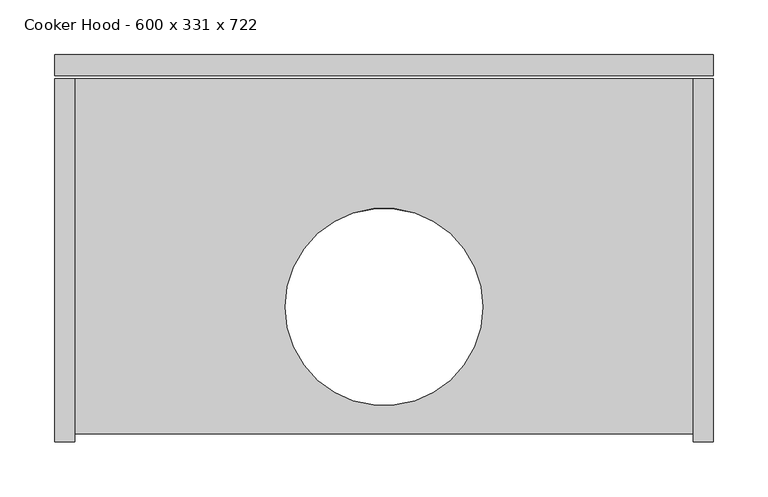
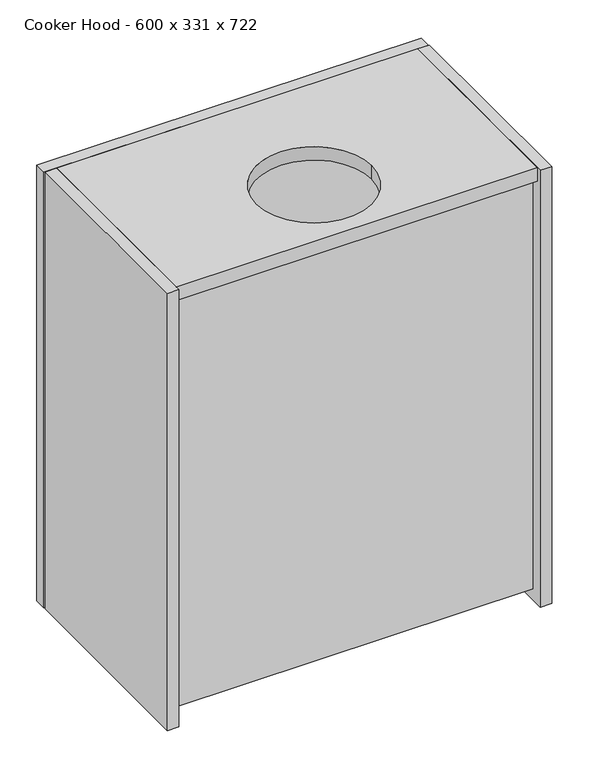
"""IFC4 building model written with IfcOpenShell, lengths in millimetres: furniture geometry, Furniture_Other-Furniture_Molteni&C_Prime_Wall-Unit-Cooker-Hood : Cooker Hood - 600 x 331 x 722."""

from ifc_helpers import new_model, si_unit, frame, origin, origin_with_axes, place, context, project, spatial, polyline, circle_curve, outline, extrude, faceted_brep, source, transform, mapped, element, save
from ifc_brep_helpers import plane_surface, revolved_surface, advanced_brep


def cooker_hood_600_x_331_x_722_96242f5e(model_context):
    return source(origin(), model_context, "Body", "SolidModel", [
        extrude(outline(polyline([(-300.0, 187.5), (300.0, 187.5), (300.0, 168.5), (-300.0, 168.5), (-300.0, 187.5)])), origin_with_axes(), (0.0, 0.0, 1.0), 719.9183585),
        faceted_brep([(-300.0, 165.5, 722.0), (-300.0, -165.5, 722.0), (-282.0, -165.5, 722.0), (-282.0, 165.5, 722.0), (-300.0, 165.5, 0.0), (-282.0, 165.5, 0.0), (-282.0, -165.5, 0.0), (-300.0, -165.5, 0.0), (-282.0, -137.5, 18.0), (-282.0, -145.5, 18.0), (-282.0, -145.5, 704.0), (-282.0, -137.5, 704.0), (300.0, 165.5, 722.0), (282.0, 165.5, 722.0), (282.0, -165.5, 722.0), (300.0, -165.5, 722.0), (300.0, 165.5, 0.0), (300.0, -165.5, 0.0), (282.0, -165.5, 0.0), (282.0, 165.5, 0.0), (282.0, -137.5, 704.0), (282.0, -145.5, 704.0), (282.0, -145.5, 18.0), (282.0, -137.5, 18.0)], [[[0, 1, 2, 3]], [[4, 5, 6, 7]], [[3, 5, 4, 0]], [[2, 6, 5, 3], [8, 9, 10, 11]], [[1, 7, 6, 2]], [[0, 4, 7, 1]], [[12, 13, 14, 15]], [[16, 17, 18, 19]], [[12, 16, 19, 13]], [[13, 19, 18, 14], [20, 21, 22, 23]], [[14, 18, 17, 15]], [[15, 17, 16, 12]], [[20, 23, 8, 11]], [[23, 22, 9, 8]], [[22, 21, 10, 9]], [[11, 10, 21, 20]]]),
        advanced_brep(
        [(282.0, -137.5, 350.0), (282.0, 165.5, 350.0), (282.0, 165.5, 372.0), (282.0, -137.5, 372.0), (-282.0, -137.5, 350.0), (-282.0, -137.5, 372.0), (-282.0, 165.5, 372.0), (-282.0, 165.5, 350.0), (-90.0, -42.5, 372.0), (90.0, -42.5, 372.0), (90.0, -42.5, 350.0), (-90.0, -42.5, 350.0)],
        [
            (0, 1),
            (1, 2),
            (2, 3),
            (3, 0),
            (4, 5),
            (5, 6),
            (6, 7),
            (7, 4),
            (3, 5),
            (4, 0),
            (2, 6),
            (8, 9, circle_curve(frame((0.0, -42.5, 372.0), z_axis=(0.0, 0.0, -1.0), x_axis=(1.0, 0.0, 0.0)), 90.0)),
            (9, 8, circle_curve(frame((0.0, -42.5, 372.0), z_axis=(0.0, 0.0, -1.0), x_axis=(1.0, 0.0, 0.0)), 90.0)),
            (1, 7),
            (10, 11, circle_curve(frame((0.0, -42.5, 350.0), z_axis=(0.0, 0.0, 1.0), x_axis=(1.0, 0.0, 0.0)), 90.0)),
            (11, 10, circle_curve(frame((0.0, -42.5, 350.0), z_axis=(0.0, 0.0, 1.0), x_axis=(1.0, 0.0, 0.0)), 90.0)),
            (11, 8),
            (9, 10),
        ],
        [
            plane_surface(frame((282.0, -137.5, 372.0), z_axis=(1.0, 0.0, 0.0), x_axis=(0.0, 0.0, 1.0))),
            plane_surface(frame((-282.0, -137.5, 372.0), z_axis=(-1.0, 0.0, 0.0), x_axis=(0.0, 0.0, -1.0))),
            plane_surface(frame((282.0, -137.5, 350.0), z_axis=(0.0, -1.0, 0.0), x_axis=(-1.0, 0.0, 0.0))),
            plane_surface(frame((282.0, -137.5, 372.0), z_axis=(0.0, 0.0, 1.0), x_axis=(-1.0, 0.0, 0.0))),
            plane_surface(frame((282.0, 165.5, 372.0), z_axis=(0.0, 1.0, 0.0), x_axis=(-1.0, 0.0, 0.0))),
            plane_surface(frame((282.0, 165.5, 350.0), z_axis=(0.0, 0.0, -1.0), x_axis=(-1.0, 0.0, 0.0))),
            revolved_surface(polyline([(90.0, -42.5, 372.0), (90.0, -42.5, 350.0)]), (0.0, -42.5, 22.0), (0.0, 0.0, 1.0)),
        ],
        [
            (0, [[1, 2, 3, 4]]),
            (1, [[5, 6, 7, 8]]),
            (2, [[9, -5, 10, -4]]),
            (3, [[11, -6, -9, -3], [12, 13]]),
            (4, [[14, -7, -11, -2]]),
            (5, [[-10, -8, -14, -1], [15, 16]]),
            (6, [[-16, 17, -13, 18]]),
            (6, [[-12, -17, -15, -18]]),
        ],
    ),
        advanced_brep(
        [(90.0, -42.5, 700.0), (-90.0, -42.5, 700.0), (-90.0, -42.5, 722.0), (90.0, -42.5, 722.0), (282.0, 165.5, 722.0), (282.0, -158.5, 722.0), (282.0, -158.5, 700.0), (282.0, -145.5, 700.0), (282.0, -145.5, 704.0), (282.0, -137.5, 704.0), (282.0, -137.5, 700.0), (282.0, 165.5, 700.0), (-282.0, 165.5, 722.0), (-282.0, 165.5, 700.0), (-282.0, -137.5, 700.0), (-282.0, -137.5, 704.0), (-282.0, -145.5, 704.0), (-282.0, -145.5, 700.0), (-282.0, -158.5, 700.0), (-282.0, -158.5, 722.0)],
        [
            (0, 1, circle_curve(frame((0.0, -42.5, 700.0), z_axis=(0.0, 0.0, -1.0), x_axis=(1.0, 0.0, 0.0)), 90.0)),
            (1, 2),
            (2, 3, circle_curve(frame((0.0, -42.5, 722.0), z_axis=(0.0, 0.0, 1.0), x_axis=(1.0, 0.0, 0.0)), 90.0)),
            (3, 0),
            (3, 2, circle_curve(frame((0.0, -42.5, 722.0), z_axis=(0.0, 0.0, 1.0), x_axis=(1.0, 0.0, 0.0)), 90.0)),
            (1, 0, circle_curve(frame((0.0, -42.5, 700.0), z_axis=(0.0, 0.0, -1.0), x_axis=(1.0, 0.0, 0.0)), 90.0)),
            (4, 5),
            (5, 6),
            (6, 7),
            (7, 8),
            (8, 9),
            (9, 10),
            (10, 11),
            (11, 4),
            (12, 13),
            (13, 14),
            (14, 15),
            (15, 16),
            (16, 17),
            (17, 18),
            (18, 19),
            (19, 12),
            (11, 13),
            (12, 4),
            (10, 14),
            (9, 15),
            (8, 16),
            (7, 17),
            (6, 18),
            (5, 19),
        ],
        [
            revolved_surface(polyline([(90.0, -42.5, 722.0), (90.0, -42.5, 700.0)]), (0.0, -42.5, 22.0), (0.0, 0.0, 1.0)),
            plane_surface(frame((282.0, 165.5, 700.0), z_axis=(1.0, 0.0, 0.0), x_axis=(0.0, 0.0, -1.0))),
            plane_surface(frame((-282.0, 165.5, 700.0), z_axis=(-1.0, 0.0, 0.0), x_axis=(0.0, 0.0, 1.0))),
            plane_surface(frame((282.0, 165.5, 722.0), z_axis=(0.0, 1.0, 0.0), x_axis=(-1.0, 0.0, 0.0))),
            plane_surface(frame((282.0, 165.5, 700.0), z_axis=(0.0, 0.0, -1.0), x_axis=(-1.0, 0.0, 0.0))),
            plane_surface(frame((282.0, -137.5, 700.0), z_axis=(0.0, -1.0, 0.0), x_axis=(-1.0, 0.0, 0.0))),
            plane_surface(frame((282.0, -137.5, 704.0), z_axis=(0.0, 0.0, -1.0), x_axis=(-1.0, 0.0, 0.0))),
            plane_surface(frame((282.0, -145.5, 704.0), z_axis=(0.0, 1.0, 0.0), x_axis=(-1.0, 0.0, 0.0))),
            plane_surface(frame((282.0, -145.5, 700.0), z_axis=(0.0, 0.0, -1.0), x_axis=(-1.0, 0.0, 0.0))),
            plane_surface(frame((282.0, -158.5, 700.0), z_axis=(0.0, -1.0, 0.0), x_axis=(-1.0, 0.0, 0.0))),
            plane_surface(frame((282.0, -158.5, 722.0), z_axis=(0.0, 0.0, 1.0), x_axis=(-1.0, 0.0, 0.0))),
        ],
        [
            (0, [[1, 2, 3, 4]]),
            (0, [[5, -2, 6, -4]]),
            (1, [[7, 8, 9, 10, 11, 12, 13, 14]]),
            (2, [[15, 16, 17, 18, 19, 20, 21, 22]]),
            (3, [[23, -15, 24, -14]]),
            (4, [[25, -16, -23, -13], [-6, -1]]),
            (5, [[26, -17, -25, -12]]),
            (6, [[27, -18, -26, -11]]),
            (7, [[28, -19, -27, -10]]),
            (8, [[29, -20, -28, -9]]),
            (9, [[30, -21, -29, -8]]),
            (10, [[-24, -22, -30, -7], [-5, -3]]),
        ],
    ),
    ])


if __name__ == "__main__":
    model = new_model("IFC4")
    model_context = context("Model", 3, world=origin())
    ifc_project = project(units=[si_unit("LENGTHUNIT", "METRE", prefix="MILLI")], contexts=[model_context])
    site = spatial("IfcSite", under=ifc_project)
    building = spatial("IfcBuilding", under=site)
    placement = place(None, origin())
    cooker_hood_600_x_331_x_722_shape = cooker_hood_600_x_331_x_722_96242f5e(model_context)
    element("IfcFurniture", 1, ObjectType="Furniture_Other-Furniture_Molteni&C_Prime_Wall-Unit-Cooker-Hood : Cooker Hood - 600 x 331 x 722", at=placement, inside=building, context=model_context, shape_type="MappedRepresentation", body=[
        mapped(cooker_hood_600_x_331_x_722_shape, transform((0.0, 0.0, 0.0), x_axis=(1.0, 0.0, 0.0), y_axis=(0.0, 1.0, 0.0), z_axis=(0.0, 0.0, 1.0))),
    ])
    save(model, "model.ifc")
